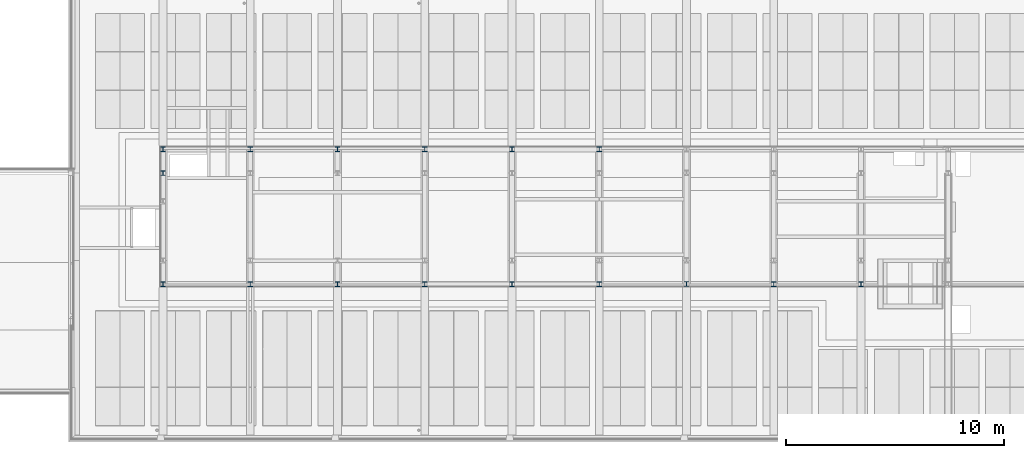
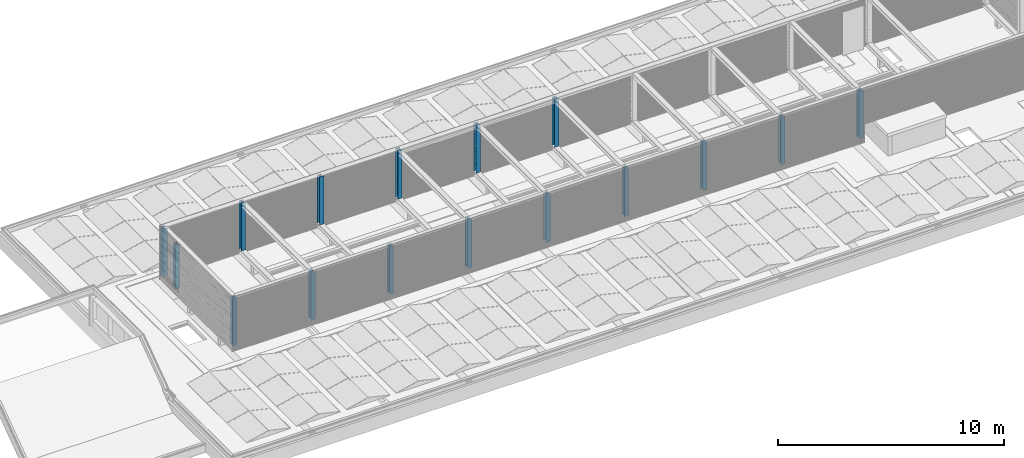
# One storey, part 1 of 63: 16 columns.
"""IFC2X3 building model written with IfcOpenShell, lengths in millimetres."""

from ifc_helpers import new_model, entity, si_unit, converted_unit, derived_unit, money_unit, direction, frame, origin_with_axes, place, context, subcontext, project, spatial, faceted_brep, material, type_object, element, save


model = new_model("IFC2X3")

# Units and contexts
model_context = context("Model", 3, precision=0.01, world=origin_with_axes(), true_north=direction((0.0, 1.0)))
body_context = subcontext(model_context, "Body", "Model", "MODEL_VIEW")
ifc_project = project(units=[si_unit("LENGTHUNIT", "METRE", prefix="MILLI"), si_unit("AREAUNIT", "SQUARE_METRE"), si_unit("VOLUMEUNIT", "CUBIC_METRE"), converted_unit("PLANEANGLEUNIT", "DEGREE", entity("IfcPlaneAngleMeasure", 0.0174532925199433), si_unit("PLANEANGLEUNIT", "RADIAN"), dimensions=[0, 0, 0, 0, 0, 0, 0]), money_unit("EUR"), converted_unit("TIMEUNIT", "Year", entity("IfcTimeMeasure", 31557600.0), si_unit("TIMEUNIT", "SECOND"), dimensions=[0, 0, 1, 0, 0, 0, 0]), si_unit("MASSUNIT", "GRAM", prefix="KILO"), si_unit("THERMODYNAMICTEMPERATUREUNIT", "DEGREE_CELSIUS"), si_unit("LUMINOUSINTENSITYUNIT", "LUMEN"), si_unit("ENERGYUNIT", "JOULE", prefix="MEGA"), derived_unit("THERMALCONDUCTANCEUNIT", [(si_unit("POWERUNIT", "WATT"), 1), (si_unit("LENGTHUNIT", "METRE"), -1), (si_unit("THERMODYNAMICTEMPERATUREUNIT", "KELVIN"), -1)]), derived_unit("SPECIFICHEATCAPACITYUNIT", [(si_unit("ENERGYUNIT", "JOULE"), 1), (si_unit("MASSUNIT", "GRAM", prefix="KILO"), -1), (si_unit("THERMODYNAMICTEMPERATUREUNIT", "KELVIN"), -1)]), derived_unit("MASSDENSITYUNIT", [(si_unit("MASSUNIT", "GRAM", prefix="KILO"), 1), (si_unit("VOLUMEUNIT", "CUBIC_METRE"), -1)])], contexts=[model_context])

# Site, building, storey
site_placement = place(None, origin_with_axes())
site = spatial("IfcSite", under=ifc_project, at=site_placement, Name="<site naam>", CompositionType="ELEMENT")
building_placement = place(site_placement, origin_with_axes())
building = spatial("IfcBuilding", under=site, at=building_placement, Name="<Naam gebouw>", CompositionType="ELEMENT")
storey_placement = place(building_placement, frame((0.0, 0.0, 12770.0), z_axis=(0.0, 0.0, 1.0), x_axis=(1.0, 0.0, 0.0)))
storey = spatial("IfcBuildingStorey", under=building, at=storey_placement, Name="04 4e verdieping", CompositionType="ELEMENT", Elevation=12770.0)

# Columns
ifc_material = material(Name="staal C")
column_type = type_object("IfcColumnType", Name="HEB220 220 x 220", PredefinedType="COLUMN")
column_1_placement = place(storey_placement, frame((28000.00000000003, 13084.50000000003, 559.6514325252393), z_axis=(0.0, 0.0, 1.0), x_axis=(1.0, 0.0, 0.0)))
element("IfcColumn", 1, at=column_1_placement, inside=storey, type_object=column_type, material=ifc_material, Name="28_Kolom_HEB220", ObjectType="COLUMN", context=body_context, shape_type="Brep", body=[
    faceted_brep([(-109.9999999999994, 115.5000000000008, 2629.999999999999), (-109.9999999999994, 115.5000000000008, 0.0), (-109.9999999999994, 99.50000000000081, 0.0), (-109.9999999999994, 99.50000000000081, 2629.999999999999), (109.9999999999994, 115.5000000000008, 2629.999999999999), (109.9999999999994, 115.5000000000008, 0.0), (109.9999999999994, 99.50000000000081, 0.0), (4.750000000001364, 99.50000000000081, 0.0), (4.750000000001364, -88.4999999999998, 0.0), (109.9999999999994, -88.4999999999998, 0.0), (109.9999999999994, -104.4999999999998, 0.0), (-109.9999999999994, -104.4999999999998, 0.0), (-109.9999999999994, -88.4999999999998, 0.0), (-4.750000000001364, -88.4999999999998, 0.0), (-4.750000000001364, 99.50000000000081, 0.0), (-4.750000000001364, 99.50000000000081, 2629.999999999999), (-4.750000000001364, -88.4999999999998, 2629.999999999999), (-109.9999999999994, -88.4999999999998, 2629.999999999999), (-109.9999999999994, -104.4999999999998, 2629.999999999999), (109.9999999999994, -104.4999999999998, 2629.999999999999), (109.9999999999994, -88.4999999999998, 2629.999999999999), (4.750000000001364, -88.4999999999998, 2629.999999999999), (4.750000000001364, 99.50000000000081, 2629.999999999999), (109.9999999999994, 99.50000000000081, 2629.999999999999)], [[[0, 1, 2, 3]], [[4, 5, 1, 0]], [[2, 1, 5, 6, 7, 8, 9, 10, 11, 12, 13, 14]], [[3, 2, 14, 15]], [[4, 0, 3, 15, 16, 17, 18, 19, 20, 21, 22, 23]], [[23, 6, 5, 4]], [[22, 7, 6, 23]], [[21, 8, 7, 22]], [[20, 9, 8, 21]], [[19, 10, 9, 20]], [[18, 11, 10, 19]], [[17, 12, 11, 18]], [[16, 13, 12, 17]], [[15, 14, 13, 16]]]),
])
column_2_placement = place(storey_placement, frame((28000.00000000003, 6904.500000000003, 559.6514325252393), z_axis=(0.0, 0.0, 1.0), x_axis=(1.0, 0.0, 0.0)))
element("IfcColumn", 2, at=column_2_placement, inside=storey, type_object=column_type, material=ifc_material, Name="28_Kolom_HEB220", ObjectType="COLUMN", context=body_context, shape_type="Brep", body=[
    faceted_brep([(-109.9999999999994, 115.4999999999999, 2630.000021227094), (-109.9999999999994, 115.4999999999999, 0.0), (-109.9999999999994, 99.49999999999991, 0.0), (-109.9999999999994, 99.49999999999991, 2630.000021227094), (109.9999999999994, 115.4999999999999, 2630.000021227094), (109.9999999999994, 115.4999999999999, 0.0), (109.9999999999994, 99.49999999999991, 0.0), (4.750000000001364, 99.49999999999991, 0.0), (4.750000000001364, -88.4999999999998, 0.0), (109.9999999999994, -88.4999999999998, 0.0), (109.9999999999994, -104.4999999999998, 0.0), (-109.9999999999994, -104.4999999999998, 0.0), (-109.9999999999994, -88.4999999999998, 0.0), (-4.750000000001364, -88.4999999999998, 0.0), (-4.750000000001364, 99.49999999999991, 0.0), (-4.750000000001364, 99.49999999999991, 2630.000021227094), (-4.750000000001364, -88.4999999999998, 2630.000021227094), (-109.9999999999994, -88.4999999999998, 2630.000021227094), (-109.9999999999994, -104.4999999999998, 2630.000021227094), (109.9999999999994, -104.4999999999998, 2630.000021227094), (109.9999999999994, -88.4999999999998, 2630.000021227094), (4.750000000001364, -88.4999999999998, 2630.000021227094), (4.750000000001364, 99.49999999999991, 2630.000021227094), (109.9999999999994, 99.49999999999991, 2630.000021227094)], [[[0, 1, 2, 3]], [[4, 5, 1, 0]], [[2, 1, 5, 6, 7, 8, 9, 10, 11, 12, 13, 14]], [[3, 2, 14, 15]], [[4, 0, 3, 15, 16, 17, 18, 19, 20, 21, 22, 23]], [[23, 6, 5, 4]], [[22, 7, 6, 23]], [[21, 8, 7, 22]], [[20, 9, 8, 21]], [[19, 10, 9, 20]], [[18, 11, 10, 19]], [[17, 12, 11, 18]], [[16, 13, 12, 17]], [[15, 14, 13, 16]]]),
])
column_3_placement = place(storey_placement, frame((23999.9999721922, 13084.50000000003, 559.6514325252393), z_axis=(0.0, 0.0, 1.0), x_axis=(1.0, 0.0, 0.0)))
element("IfcColumn", 3, at=column_3_placement, inside=storey, type_object=column_type, material=ifc_material, Name="28_Kolom_HEB220", ObjectType="COLUMN", context=body_context, shape_type="Brep", body=[
    faceted_brep([(-109.9999999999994, 115.5000000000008, 2595.734376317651), (-109.9999999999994, 115.5000000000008, 0.0), (-109.9999999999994, 99.50000000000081, 0.0), (-109.9999999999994, 99.50000000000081, 2595.734376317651), (109.9999999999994, 115.5000000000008, 2595.734376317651), (109.9999999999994, 115.5000000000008, 0.0), (109.9999999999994, 99.50000000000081, 0.0), (4.750000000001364, 99.50000000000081, 0.0), (4.750000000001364, -88.4999999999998, 0.0), (109.9999999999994, -88.4999999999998, 0.0), (109.9999999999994, -104.4999999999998, 0.0), (-109.9999999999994, -104.4999999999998, 0.0), (-109.9999999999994, -88.4999999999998, 0.0), (-4.750000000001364, -88.4999999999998, 0.0), (-4.750000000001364, 99.50000000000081, 0.0), (-4.750000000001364, 99.50000000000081, 2595.734376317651), (-4.750000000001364, -88.4999999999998, 2595.734376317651), (-109.9999999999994, -88.4999999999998, 2595.734376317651), (-109.9999999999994, -104.4999999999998, 2595.734376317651), (109.9999999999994, -104.4999999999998, 2595.734376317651), (109.9999999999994, -88.4999999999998, 2595.734376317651), (4.750000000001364, -88.4999999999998, 2595.734376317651), (4.750000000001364, 99.50000000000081, 2595.734376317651), (109.9999999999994, 99.50000000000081, 2595.734376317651)], [[[0, 1, 2, 3]], [[4, 5, 1, 0]], [[2, 1, 5, 6, 7, 8, 9, 10, 11, 12, 13, 14]], [[3, 2, 14, 15]], [[4, 0, 3, 15, 16, 17, 18, 19, 20, 21, 22, 23]], [[23, 6, 5, 4]], [[22, 7, 6, 23]], [[21, 8, 7, 22]], [[20, 9, 8, 21]], [[19, 10, 9, 20]], [[18, 11, 10, 19]], [[17, 12, 11, 18]], [[16, 13, 12, 17]], [[15, 14, 13, 16]]]),
])
column_4_placement = place(storey_placement, frame((23999.99997219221, 6904.500000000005, 559.6514325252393), z_axis=(0.0, 0.0, 1.0), x_axis=(1.0, 0.0, 0.0)))
element("IfcColumn", 4, at=column_4_placement, inside=storey, type_object=column_type, material=ifc_material, Name="28_Kolom_HEB220", ObjectType="COLUMN", context=body_context, shape_type="Brep", body=[
    faceted_brep([(-109.9999999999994, 115.4999999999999, 2595.734376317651), (-109.9999999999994, 115.4999999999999, 0.0), (-109.9999999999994, 99.49999999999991, 0.0), (-109.9999999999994, 99.49999999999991, 2595.734376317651), (109.9999999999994, 115.4999999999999, 2595.734376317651), (109.9999999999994, 115.4999999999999, 0.0), (109.9999999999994, 99.49999999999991, 0.0), (4.750000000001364, 99.49999999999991, 0.0), (4.750000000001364, -88.4999999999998, 0.0), (109.9999999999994, -88.4999999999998, 0.0), (109.9999999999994, -104.4999999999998, 0.0), (-109.9999999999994, -104.4999999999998, 0.0), (-109.9999999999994, -88.4999999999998, 0.0), (-4.750000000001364, -88.4999999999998, 0.0), (-4.750000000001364, 99.49999999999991, 0.0), (-4.750000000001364, 99.49999999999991, 2595.734376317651), (-4.750000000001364, -88.4999999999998, 2595.734376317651), (-109.9999999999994, -88.4999999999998, 2595.734376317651), (-109.9999999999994, -104.4999999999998, 2595.734376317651), (109.9999999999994, -104.4999999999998, 2595.734376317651), (109.9999999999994, -88.4999999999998, 2595.734376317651), (4.750000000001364, -88.4999999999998, 2595.734376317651), (4.750000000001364, 99.49999999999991, 2595.734376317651), (109.9999999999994, 99.49999999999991, 2595.734376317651)], [[[0, 1, 2, 3]], [[4, 5, 1, 0]], [[2, 1, 5, 6, 7, 8, 9, 10, 11, 12, 13, 14]], [[3, 2, 14, 15]], [[4, 0, 3, 15, 16, 17, 18, 19, 20, 21, 22, 23]], [[23, 6, 5, 4]], [[22, 7, 6, 23]], [[21, 8, 7, 22]], [[20, 9, 8, 21]], [[19, 10, 9, 20]], [[18, 11, 10, 19]], [[17, 12, 11, 18]], [[16, 13, 12, 17]], [[15, 14, 13, 16]]]),
])
column_5_placement = place(storey_placement, frame((35999.99996569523, 13084.50000000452, 559.6514325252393), z_axis=(0.0, 0.0, 1.0), x_axis=(1.0, 0.0, 0.0)))
element("IfcColumn", 5, at=column_5_placement, inside=storey, type_object=column_type, material=ifc_material, Name="28_Kolom_HEB220", ObjectType="COLUMN", context=body_context, shape_type="Brep", body=[
    faceted_brep([(-109.9999999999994, 115.5000000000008, 2595.734376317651), (-109.9999999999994, 115.5000000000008, 0.0), (-109.9999999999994, 99.50000000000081, 0.0), (-109.9999999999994, 99.50000000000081, 2595.734376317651), (109.9999999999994, 115.5000000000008, 2595.734376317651), (109.9999999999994, 115.5000000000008, 0.0), (109.9999999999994, 99.50000000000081, 0.0), (4.750000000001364, 99.50000000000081, 0.0), (4.750000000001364, -88.4999999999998, 0.0), (109.9999999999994, -88.4999999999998, 0.0), (109.9999999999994, -104.4999999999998, 0.0), (-109.9999999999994, -104.4999999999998, 0.0), (-109.9999999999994, -88.4999999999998, 0.0), (-4.750000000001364, -88.4999999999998, 0.0), (-4.750000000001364, 99.50000000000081, 0.0), (-4.750000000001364, 99.50000000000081, 2595.734376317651), (-4.750000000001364, -88.4999999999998, 2595.734376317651), (-109.9999999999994, -88.4999999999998, 2595.734376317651), (-109.9999999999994, -104.4999999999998, 2595.734376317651), (109.9999999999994, -104.4999999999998, 2595.734376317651), (109.9999999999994, -88.4999999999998, 2595.734376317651), (4.750000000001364, -88.4999999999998, 2595.734376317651), (4.750000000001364, 99.50000000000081, 2595.734376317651), (109.9999999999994, 99.50000000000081, 2595.734376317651)], [[[0, 1, 2, 3]], [[4, 5, 1, 0]], [[2, 1, 5, 6, 7, 8, 9, 10, 11, 12, 13, 14]], [[3, 2, 14, 15]], [[4, 0, 3, 15, 16, 17, 18, 19, 20, 21, 22, 23]], [[23, 6, 5, 4]], [[22, 7, 6, 23]], [[21, 8, 7, 22]], [[20, 9, 8, 21]], [[19, 10, 9, 20]], [[18, 11, 10, 19]], [[17, 12, 11, 18]], [[16, 13, 12, 17]], [[15, 14, 13, 16]]]),
])
column_6_placement = place(storey_placement, frame((35999.99996569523, 6904.500000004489, 559.6514325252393), z_axis=(0.0, 0.0, 1.0), x_axis=(1.0, 0.0, 0.0)))
element("IfcColumn", 6, at=column_6_placement, inside=storey, type_object=column_type, material=ifc_material, Name="28_Kolom_HEB220", ObjectType="COLUMN", context=body_context, shape_type="Brep", body=[
    faceted_brep([(-109.9999999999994, 115.4999999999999, 2595.734376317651), (-109.9999999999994, 115.4999999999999, 0.0), (-109.9999999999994, 99.49999999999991, 0.0), (-109.9999999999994, 99.49999999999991, 2595.734376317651), (109.9999999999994, 115.4999999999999, 2595.734376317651), (109.9999999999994, 115.4999999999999, 0.0), (109.9999999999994, 99.49999999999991, 0.0), (4.750000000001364, 99.49999999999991, 0.0), (4.750000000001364, -88.4999999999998, 0.0), (109.9999999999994, -88.4999999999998, 0.0), (109.9999999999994, -104.4999999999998, 0.0), (-109.9999999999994, -104.4999999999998, 0.0), (-109.9999999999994, -88.4999999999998, 0.0), (-4.750000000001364, -88.4999999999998, 0.0), (-4.750000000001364, 99.49999999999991, 0.0), (-4.750000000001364, 99.49999999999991, 2595.734376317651), (-4.750000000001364, -88.4999999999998, 2595.734376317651), (-109.9999999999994, -88.4999999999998, 2595.734376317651), (-109.9999999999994, -104.4999999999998, 2595.734376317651), (109.9999999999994, -104.4999999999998, 2595.734376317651), (109.9999999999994, -88.4999999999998, 2595.734376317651), (4.750000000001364, -88.4999999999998, 2595.734376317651), (4.750000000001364, 99.49999999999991, 2595.734376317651), (109.9999999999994, 99.49999999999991, 2595.734376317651)], [[[0, 1, 2, 3]], [[4, 5, 1, 0]], [[2, 1, 5, 6, 7, 8, 9, 10, 11, 12, 13, 14]], [[3, 2, 14, 15]], [[4, 0, 3, 15, 16, 17, 18, 19, 20, 21, 22, 23]], [[23, 6, 5, 4]], [[22, 7, 6, 23]], [[21, 8, 7, 22]], [[20, 9, 8, 21]], [[19, 10, 9, 20]], [[18, 11, 10, 19]], [[17, 12, 11, 18]], [[16, 13, 12, 17]], [[15, 14, 13, 16]]]),
])
column_7_placement = place(storey_placement, frame((31999.99972515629, 13084.50000000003, 559.6514325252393), z_axis=(0.0, 0.0, 1.0), x_axis=(1.0, 0.0, 0.0)))
element("IfcColumn", 7, at=column_7_placement, inside=storey, type_object=column_type, material=ifc_material, Name="28_Kolom_HEB220", ObjectType="COLUMN", context=body_context, shape_type="Brep", body=[
    faceted_brep([(-109.9999999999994, 115.5000000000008, 2595.734376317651), (-109.9999999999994, 115.5000000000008, 0.0), (-109.9999999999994, 99.50000000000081, 0.0), (-109.9999999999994, 99.50000000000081, 2595.734376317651), (109.9999999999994, 115.5000000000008, 2595.734376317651), (109.9999999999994, 115.5000000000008, 0.0), (109.9999999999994, 99.50000000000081, 0.0), (4.750000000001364, 99.50000000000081, 0.0), (4.750000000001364, -88.4999999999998, 0.0), (109.9999999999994, -88.4999999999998, 0.0), (109.9999999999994, -104.4999999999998, 0.0), (-109.9999999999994, -104.4999999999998, 0.0), (-109.9999999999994, -88.4999999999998, 0.0), (-4.750000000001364, -88.4999999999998, 0.0), (-4.750000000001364, 99.50000000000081, 0.0), (-4.750000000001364, 99.50000000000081, 2595.734376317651), (-4.750000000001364, -88.4999999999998, 2595.734376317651), (-109.9999999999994, -88.4999999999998, 2595.734376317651), (-109.9999999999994, -104.4999999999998, 2595.734376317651), (109.9999999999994, -104.4999999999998, 2595.734376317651), (109.9999999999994, -88.4999999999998, 2595.734376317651), (4.750000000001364, -88.4999999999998, 2595.734376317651), (4.750000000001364, 99.50000000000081, 2595.734376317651), (109.9999999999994, 99.50000000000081, 2595.734376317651)], [[[0, 1, 2, 3]], [[4, 5, 1, 0]], [[2, 1, 5, 6, 7, 8, 9, 10, 11, 12, 13, 14]], [[3, 2, 14, 15]], [[4, 0, 3, 15, 16, 17, 18, 19, 20, 21, 22, 23]], [[23, 6, 5, 4]], [[22, 7, 6, 23]], [[21, 8, 7, 22]], [[20, 9, 8, 21]], [[19, 10, 9, 20]], [[18, 11, 10, 19]], [[17, 12, 11, 18]], [[16, 13, 12, 17]], [[15, 14, 13, 16]]]),
])
column_8_placement = place(storey_placement, frame((31999.99972515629, 6904.500000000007, 559.6514325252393), z_axis=(0.0, 0.0, 1.0), x_axis=(1.0, 0.0, 0.0)))
element("IfcColumn", 8, at=column_8_placement, inside=storey, type_object=column_type, material=ifc_material, Name="28_Kolom_HEB220", ObjectType="COLUMN", context=body_context, shape_type="Brep", body=[
    faceted_brep([(-109.9999999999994, 115.4999999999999, 2595.734376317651), (-109.9999999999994, 115.4999999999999, 0.0), (-109.9999999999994, 99.49999999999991, 0.0), (-109.9999999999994, 99.49999999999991, 2595.734376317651), (110.000000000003, 115.4999999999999, 2595.734376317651), (110.000000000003, 115.4999999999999, 0.0), (110.000000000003, 99.49999999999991, 0.0), (4.749999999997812, 99.49999999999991, 0.0), (4.749999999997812, -88.4999999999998, 0.0), (110.000000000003, -88.4999999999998, 0.0), (110.000000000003, -104.4999999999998, 0.0), (-109.9999999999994, -104.4999999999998, 0.0), (-109.9999999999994, -88.4999999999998, 0.0), (-4.750000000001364, -88.4999999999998, 0.0), (-4.750000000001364, 99.49999999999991, 0.0), (-4.750000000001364, 99.49999999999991, 2595.734376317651), (-4.750000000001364, -88.4999999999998, 2595.734376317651), (-109.9999999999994, -88.4999999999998, 2595.734376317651), (-109.9999999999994, -104.4999999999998, 2595.734376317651), (110.000000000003, -104.4999999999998, 2595.734376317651), (110.000000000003, -88.4999999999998, 2595.734376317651), (4.749999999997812, -88.4999999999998, 2595.734376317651), (4.749999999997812, 99.49999999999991, 2595.734376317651), (110.000000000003, 99.49999999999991, 2595.734376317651)], [[[0, 1, 2, 3]], [[4, 5, 1, 0]], [[2, 1, 5, 6, 7, 8, 9, 10, 11, 12, 13, 14]], [[3, 2, 14, 15]], [[4, 0, 3, 15, 16, 17, 18, 19, 20, 21, 22, 23]], [[23, 6, 5, 4]], [[22, 7, 6, 23]], [[21, 8, 7, 22]], [[20, 9, 8, 21]], [[19, 10, 9, 20]], [[18, 11, 10, 19]], [[17, 12, 11, 18]], [[16, 13, 12, 17]], [[15, 14, 13, 16]]]),
])
column_9_placement = place(storey_placement, frame((20000.00000000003, 13084.50000000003, 559.6514325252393), z_axis=(0.0, 0.0, 1.0), x_axis=(1.0, 0.0, 0.0)))
element("IfcColumn", 9, at=column_9_placement, inside=storey, type_object=column_type, material=ifc_material, Name="28_Kolom_HEB220", ObjectType="COLUMN", context=body_context, shape_type="Brep", body=[
    faceted_brep([(-109.9999999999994, 115.5000000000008, 2595.734376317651), (-109.9999999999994, 115.5000000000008, 0.0), (-109.9999999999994, 99.50000000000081, 0.0), (-109.9999999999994, 99.50000000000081, 2595.734376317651), (109.9999999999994, 115.5000000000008, 2595.734376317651), (109.9999999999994, 115.5000000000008, 0.0), (109.9999999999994, 99.50000000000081, 0.0), (4.750000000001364, 99.50000000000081, 0.0), (4.750000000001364, -88.4999999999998, 0.0), (109.9999999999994, -88.4999999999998, 0.0), (109.9999999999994, -104.4999999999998, 0.0), (-109.9999999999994, -104.4999999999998, 0.0), (-109.9999999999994, -88.4999999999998, 0.0), (-4.750000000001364, -88.4999999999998, 0.0), (-4.750000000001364, 99.50000000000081, 0.0), (-4.750000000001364, 99.50000000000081, 2595.734376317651), (-4.750000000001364, -88.4999999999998, 2595.734376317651), (-109.9999999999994, -88.4999999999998, 2595.734376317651), (-109.9999999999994, -104.4999999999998, 2595.734376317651), (109.9999999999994, -104.4999999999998, 2595.734376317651), (109.9999999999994, -88.4999999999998, 2595.734376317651), (4.750000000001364, -88.4999999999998, 2595.734376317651), (4.750000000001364, 99.50000000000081, 2595.734376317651), (109.9999999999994, 99.50000000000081, 2595.734376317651)], [[[0, 1, 2, 3]], [[4, 5, 1, 0]], [[2, 1, 5, 6, 7, 8, 9, 10, 11, 12, 13, 14]], [[3, 2, 14, 15]], [[4, 0, 3, 15, 16, 17, 18, 19, 20, 21, 22, 23]], [[23, 6, 5, 4]], [[22, 7, 6, 23]], [[21, 8, 7, 22]], [[20, 9, 8, 21]], [[19, 10, 9, 20]], [[18, 11, 10, 19]], [[17, 12, 11, 18]], [[16, 13, 12, 17]], [[15, 14, 13, 16]]]),
])
column_10_placement = place(storey_placement, frame((20000.00000000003, 6904.500000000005, 559.6514325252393), z_axis=(0.0, 0.0, 1.0), x_axis=(1.0, 0.0, 0.0)))
element("IfcColumn", 10, at=column_10_placement, inside=storey, type_object=column_type, material=ifc_material, Name="28_Kolom_HEB220", ObjectType="COLUMN", context=body_context, shape_type="Brep", body=[
    faceted_brep([(-109.9999999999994, 115.4999999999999, 2595.734376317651), (-109.9999999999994, 115.4999999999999, 0.0), (-109.9999999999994, 99.49999999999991, 0.0), (-109.9999999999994, 99.49999999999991, 2595.734376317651), (109.9999999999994, 115.4999999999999, 2595.734376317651), (109.9999999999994, 115.4999999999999, 0.0), (109.9999999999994, 99.49999999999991, 0.0), (4.750000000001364, 99.49999999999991, 0.0), (4.750000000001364, -88.4999999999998, 0.0), (109.9999999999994, -88.4999999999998, 0.0), (109.9999999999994, -104.4999999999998, 0.0), (-109.9999999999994, -104.4999999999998, 0.0), (-109.9999999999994, -88.4999999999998, 0.0), (-4.750000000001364, -88.4999999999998, 0.0), (-4.750000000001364, 99.49999999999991, 0.0), (-4.750000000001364, 99.49999999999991, 2595.734376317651), (-4.750000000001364, -88.4999999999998, 2595.734376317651), (-109.9999999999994, -88.4999999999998, 2595.734376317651), (-109.9999999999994, -104.4999999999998, 2595.734376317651), (109.9999999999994, -104.4999999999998, 2595.734376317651), (109.9999999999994, -88.4999999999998, 2595.734376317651), (4.750000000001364, -88.4999999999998, 2595.734376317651), (4.750000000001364, 99.49999999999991, 2595.734376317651), (109.9999999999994, 99.49999999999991, 2595.734376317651)], [[[0, 1, 2, 3]], [[4, 5, 1, 0]], [[2, 1, 5, 6, 7, 8, 9, 10, 11, 12, 13, 14]], [[3, 2, 14, 15]], [[4, 0, 3, 15, 16, 17, 18, 19, 20, 21, 22, 23]], [[23, 6, 5, 4]], [[22, 7, 6, 23]], [[21, 8, 7, 22]], [[20, 9, 8, 21]], [[19, 10, 9, 20]], [[18, 11, 10, 19]], [[17, 12, 11, 18]], [[16, 13, 12, 17]], [[15, 14, 13, 16]]]),
])
column_11_placement = place(storey_placement, frame((16000.00000000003, 13084.50000000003, 559.6514325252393), z_axis=(0.0, 0.0, 1.0), x_axis=(1.0, 0.0, 0.0)))
element("IfcColumn", 11, at=column_11_placement, inside=storey, type_object=column_type, material=ifc_material, Name="28_Kolom_HEB220", ObjectType="COLUMN", context=body_context, shape_type="Brep", body=[
    faceted_brep([(-109.9999999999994, 115.5000000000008, 2595.734376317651), (-109.9999999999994, 115.5000000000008, 0.0), (-109.9999999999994, 99.50000000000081, 0.0), (-109.9999999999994, 99.50000000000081, 2595.734376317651), (109.9999999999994, 115.5000000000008, 2595.734376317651), (109.9999999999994, 115.5000000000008, 0.0), (109.9999999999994, 99.50000000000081, 0.0), (4.750000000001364, 99.50000000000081, 0.0), (4.750000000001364, -88.4999999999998, 0.0), (109.9999999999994, -88.4999999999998, 0.0), (109.9999999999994, -104.4999999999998, 0.0), (-109.9999999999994, -104.4999999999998, 0.0), (-109.9999999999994, -88.4999999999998, 0.0), (-4.749999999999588, -88.4999999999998, 0.0), (-4.749999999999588, 99.50000000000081, 0.0), (-4.749999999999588, 99.50000000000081, 2595.734376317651), (-4.749999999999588, -88.4999999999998, 2595.734376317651), (-109.9999999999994, -88.4999999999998, 2595.734376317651), (-109.9999999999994, -104.4999999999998, 2595.734376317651), (109.9999999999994, -104.4999999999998, 2595.734376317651), (109.9999999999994, -88.4999999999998, 2595.734376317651), (4.750000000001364, -88.4999999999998, 2595.734376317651), (4.750000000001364, 99.50000000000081, 2595.734376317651), (109.9999999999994, 99.50000000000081, 2595.734376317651)], [[[0, 1, 2, 3]], [[4, 5, 1, 0]], [[2, 1, 5, 6, 7, 8, 9, 10, 11, 12, 13, 14]], [[3, 2, 14, 15]], [[4, 0, 3, 15, 16, 17, 18, 19, 20, 21, 22, 23]], [[23, 6, 5, 4]], [[22, 7, 6, 23]], [[21, 8, 7, 22]], [[20, 9, 8, 21]], [[19, 10, 9, 20]], [[18, 11, 10, 19]], [[17, 12, 11, 18]], [[16, 13, 12, 17]], [[15, 14, 13, 16]]]),
])
column_12_placement = place(storey_placement, frame((16000.00000000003, 6904.500000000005, 559.6514325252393), z_axis=(0.0, 0.0, 1.0), x_axis=(1.0, 0.0, 0.0)))
element("IfcColumn", 12, at=column_12_placement, inside=storey, type_object=column_type, material=ifc_material, Name="28_Kolom_HEB220", ObjectType="COLUMN", context=body_context, shape_type="Brep", body=[
    faceted_brep([(-109.9999999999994, 115.4999999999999, 2595.734376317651), (-109.9999999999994, 115.4999999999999, 0.0), (-109.9999999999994, 99.49999999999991, 0.0), (-109.9999999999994, 99.49999999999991, 2595.734376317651), (109.9999999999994, 115.4999999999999, 2595.734376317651), (109.9999999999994, 115.4999999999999, 0.0), (109.9999999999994, 99.49999999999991, 0.0), (4.750000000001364, 99.49999999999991, 0.0), (4.750000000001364, -88.4999999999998, 0.0), (109.9999999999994, -88.4999999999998, 0.0), (109.9999999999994, -104.4999999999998, 0.0), (-109.9999999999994, -104.4999999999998, 0.0), (-109.9999999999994, -88.4999999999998, 0.0), (-4.749999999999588, -88.4999999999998, 0.0), (-4.749999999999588, 99.49999999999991, 0.0), (-4.749999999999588, 99.49999999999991, 2595.734376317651), (-4.749999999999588, -88.4999999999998, 2595.734376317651), (-109.9999999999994, -88.4999999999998, 2595.734376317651), (-109.9999999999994, -104.4999999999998, 2595.734376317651), (109.9999999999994, -104.4999999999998, 2595.734376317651), (109.9999999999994, -88.4999999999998, 2595.734376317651), (4.750000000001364, -88.4999999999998, 2595.734376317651), (4.750000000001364, 99.49999999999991, 2595.734376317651), (109.9999999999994, 99.49999999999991, 2595.734376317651)], [[[0, 1, 2, 3]], [[4, 5, 1, 0]], [[2, 1, 5, 6, 7, 8, 9, 10, 11, 12, 13, 14]], [[3, 2, 14, 15]], [[4, 0, 3, 15, 16, 17, 18, 19, 20, 21, 22, 23]], [[23, 6, 5, 4]], [[22, 7, 6, 23]], [[21, 8, 7, 22]], [[20, 9, 8, 21]], [[19, 10, 9, 20]], [[18, 11, 10, 19]], [[17, 12, 11, 18]], [[16, 13, 12, 17]], [[15, 14, 13, 16]]]),
])
column_13_placement = place(storey_placement, frame((16000.00000000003, 12000.00000000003, 559.6514325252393), z_axis=(0.0, 0.0, 1.0), x_axis=(1.0, 0.0, 0.0)))
element("IfcColumn", 13, at=column_13_placement, inside=storey, type_object=column_type, material=ifc_material, Name="28_Kolom_HEB220", ObjectType="COLUMN", context=body_context, shape_type="Brep", body=[
    faceted_brep([(-109.9999999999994, 115.5000000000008, 2375.734376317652), (-109.9999999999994, 115.5000000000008, 0.0), (-109.9999999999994, 99.50000000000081, 0.0), (-109.9999999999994, 99.50000000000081, 2375.734376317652), (109.9999999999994, 115.5000000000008, 2375.734376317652), (109.9999999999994, 115.5000000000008, 0.0), (109.9999999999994, 99.50000000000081, 0.0), (4.750000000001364, 99.50000000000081, 0.0), (4.750000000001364, -88.4999999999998, 0.0), (109.9999999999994, -88.4999999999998, 0.0), (109.9999999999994, -104.4999999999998, 0.0), (-109.9999999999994, -104.4999999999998, 0.0), (-109.9999999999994, -88.4999999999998, 0.0), (-4.749999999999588, -88.4999999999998, 0.0), (-4.749999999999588, 99.50000000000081, 0.0), (-4.749999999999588, 99.50000000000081, 2375.734376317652), (-4.749999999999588, -88.4999999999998, 2375.734376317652), (-109.9999999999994, -88.4999999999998, 2375.734376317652), (-109.9999999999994, -104.4999999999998, 2375.734376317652), (109.9999999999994, -104.4999999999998, 2375.734376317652), (109.9999999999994, -88.4999999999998, 2375.734376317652), (4.750000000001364, -88.4999999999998, 2375.734376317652), (4.750000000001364, 99.50000000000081, 2375.734376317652), (109.9999999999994, 99.50000000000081, 2375.734376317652)], [[[0, 1, 2, 3]], [[4, 5, 1, 0]], [[2, 1, 5, 6, 7, 8, 9, 10, 11, 12, 13, 14]], [[3, 2, 14, 15]], [[4, 0, 3, 15, 16, 17, 18, 19, 20, 21, 22, 23]], [[23, 6, 5, 4]], [[22, 7, 6, 23]], [[21, 8, 7, 22]], [[20, 9, 8, 21]], [[19, 10, 9, 20]], [[18, 11, 10, 19]], [[17, 12, 11, 18]], [[16, 13, 12, 17]], [[15, 14, 13, 16]]]),
])
for number, where, z_axis, x_axis, name in (
    (14, (40000.00000000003, 6912.356787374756, 559.6514325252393), (0.0, 0.0, 1.0), (1.0, 0.0, 0.0), "28_Kolom_HEB220"),
    (15, (44000.00000000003, 6904.500000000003, 559.6514325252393), (0.0, 0.0, 1.0), (1.0, 0.0, 0.0), "28_Kolom_HEB220"),
    (16, (48000.00000000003, 6904.500000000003, 559.6514325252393), (0.0, 0.0, 1.0), (1.0, 0.0, 0.0), "28_Kolom_HEB220"),
):
    element("IfcColumn", number, at=place(storey_placement, frame(where, z_axis=z_axis, x_axis=x_axis)), inside=storey, type_object=column_type, material=ifc_material, Name=name, ObjectType="COLUMN", context=body_context, shape_type="Brep", body=[
        faceted_brep([(-109.9999999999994, 115.4999999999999, 2595.734376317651), (-109.9999999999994, 115.4999999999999, 0.0), (-109.9999999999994, 99.49999999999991, 0.0), (-109.9999999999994, 99.49999999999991, 2595.734376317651), (109.9999999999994, 115.4999999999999, 2595.734376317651), (109.9999999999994, 115.4999999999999, 0.0), (109.9999999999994, 99.49999999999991, 0.0), (4.750000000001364, 99.49999999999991, 0.0), (4.750000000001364, -88.4999999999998, 0.0), (109.9999999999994, -88.4999999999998, 0.0), (109.9999999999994, -104.4999999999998, 0.0), (-109.9999999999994, -104.4999999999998, 0.0), (-109.9999999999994, -88.4999999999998, 0.0), (-4.750000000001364, -88.4999999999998, 0.0), (-4.750000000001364, 99.49999999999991, 0.0), (-4.750000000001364, 99.49999999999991, 2595.734376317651), (-4.750000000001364, -88.4999999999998, 2595.734376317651), (-109.9999999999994, -88.4999999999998, 2595.734376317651), (-109.9999999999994, -104.4999999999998, 2595.734376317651), (109.9999999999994, -104.4999999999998, 2595.734376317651), (109.9999999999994, -88.4999999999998, 2595.734376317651), (4.750000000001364, -88.4999999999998, 2595.734376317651), (4.750000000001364, 99.49999999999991, 2595.734376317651), (109.9999999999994, 99.49999999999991, 2595.734376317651)], [[[0, 1, 2, 3]], [[4, 5, 1, 0]], [[2, 1, 5, 6, 7, 8, 9, 10, 11, 12, 13, 14]], [[3, 2, 14, 15]], [[4, 0, 3, 15, 16, 17, 18, 19, 20, 21, 22, 23]], [[23, 6, 5, 4]], [[22, 7, 6, 23]], [[21, 8, 7, 22]], [[20, 9, 8, 21]], [[19, 10, 9, 20]], [[18, 11, 10, 19]], [[17, 12, 11, 18]], [[16, 13, 12, 17]], [[15, 14, 13, 16]]]),
    ])

save(model, "model.ifc")
